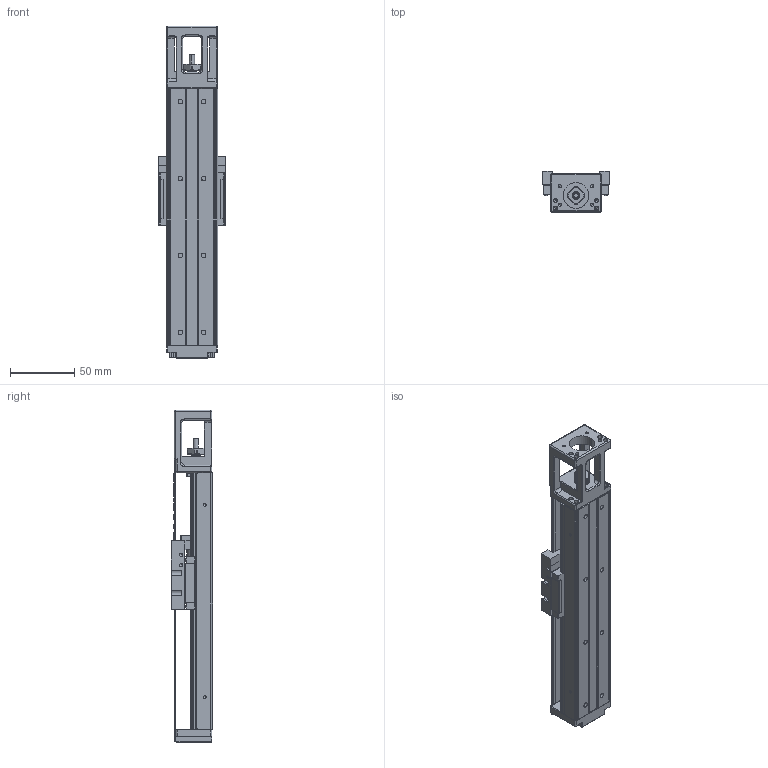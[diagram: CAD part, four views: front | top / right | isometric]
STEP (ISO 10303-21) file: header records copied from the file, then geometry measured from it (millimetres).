
FILE_DESCRIPTION (( 'STEP AP203' ), '1' );
FILE_NAME ('hkk40-200a1f0c.STEP', '2016-11-03T01:44:41', ( 'Windows' ), ( 'Microsoft' ), 'SwSTEP 2.0', 'SolidWorks 2016', '' );
FILE_SCHEMA (( 'CONFIG_CONTROL_DESIGN' ));
Length unit declared in the file: millimetre
Products named in the file (3): 掛极; 40賑怢郪; hkk40-200a1f0c
Assembly tree (2 placements, depth 2):
  hkk40-200a1f0c
    掛极
    40賑怢郪
Bounding box: 52 x 32 x 259 mm (x, y, z)
Volume: 141829.4 mm3; surface area: 80740.9 mm2
Topology: 13 solids, 27 shells, 1175 faces, 3055 edges, 1846 vertices
Faces by surface type: cylinder 451, plane 379, cone 211, bspline 102, torus 22, sphere 10
Entity records: 47344 total; most frequent: CARTESIAN_POINT 19522, ORIENTED_EDGE 5862, DIRECTION 5428, EDGE_CURVE 2931, AXIS2_PLACEMENT_3D 1933, VERTEX_POINT 1846, LINE 1562, VECTOR 1562
